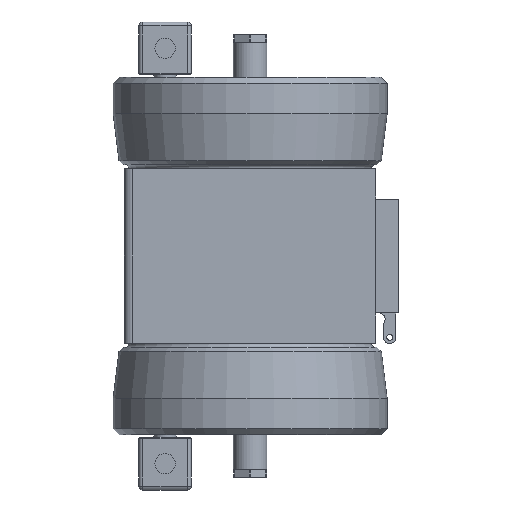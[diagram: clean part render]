
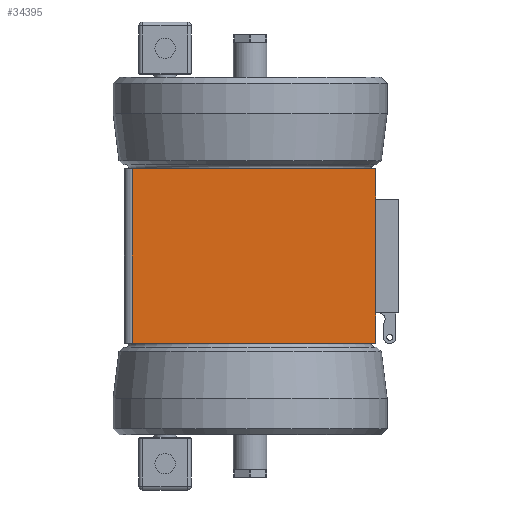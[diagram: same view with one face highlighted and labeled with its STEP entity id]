
A CAD part, left-side view. The second image highlights one B-rep face of the part: STEP entity #34395.
In plain terms, the highlighted planar face has unit normal (-1, 0, 0).
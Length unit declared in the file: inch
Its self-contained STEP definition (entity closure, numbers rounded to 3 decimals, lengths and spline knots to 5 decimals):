
#130 = DIRECTION ( 'NONE',  ( 0., -1., 0. ) ) ;
#135 = CARTESIAN_POINT ( 'NONE',  ( -4.0625, 4.0625, -2.82725 ) ) ;
#169 = CARTESIAN_POINT ( 'NONE',  ( -4.0625, -4.0625, 2.82725 ) ) ;
#171 = DIRECTION ( 'NONE',  ( 0., 0., -1. ) ) ;
#215 = CARTESIAN_POINT ( 'NONE',  ( -4.0625, 3.8125, -2.82725 ) ) ;
#234 = DIRECTION ( 'NONE',  ( 0., 0., -1. ) ) ;
#5251 = VECTOR ( 'NONE', #6084, 39.37008 ) ;
#5529 = LINE ( 'NONE', #6030, #5251 ) ;
#5896 = LINE ( 'NONE', #6169, #5904 ) ;
#5904 = VECTOR ( 'NONE', #6173, 39.37008 ) ;
#6030 = CARTESIAN_POINT ( 'NONE',  ( -4.0625, -4.0625, 2.82725 ) ) ;
#6084 = DIRECTION ( 'NONE',  ( 0., 0., -1. ) ) ;
#6169 = CARTESIAN_POINT ( 'NONE',  ( -4.0625, -4.0625, 2.82725 ) ) ;
#6173 = DIRECTION ( 'NONE',  ( 0., 0., -1. ) ) ;
#6478 = EDGE_CURVE ( 'NONE', #10713, #10783, #5529, .T. ) ;
#6534 = EDGE_CURVE ( 'NONE', #10759, #10645, #5896, .T. ) ;
#6705 = DIRECTION ( 'NONE',  ( 0., -1., 0. ) ) ;
#6707 = CARTESIAN_POINT ( 'NONE',  ( -4.0625, 4.0625, 2.82725 ) ) ;
#8940 = EDGE_LOOP ( 'NONE', ( #17939, #10972, #17688, #10898, #10893, #10993 ) ) ;
#10645 = VERTEX_POINT ( 'NONE', #23133 ) ;
#10713 = VERTEX_POINT ( 'NONE', #23200 ) ;
#10759 = VERTEX_POINT ( 'NONE', #23037 ) ;
#10783 = VERTEX_POINT ( 'NONE', #22988 ) ;
#10893 = ORIENTED_EDGE ( 'NONE', *, *, #16281, .F. ) ;
#10898 = ORIENTED_EDGE ( 'NONE', *, *, #6478, .F. ) ;
#10972 = ORIENTED_EDGE ( 'NONE', *, *, #16296, .T. ) ;
#10993 = ORIENTED_EDGE ( 'NONE', *, *, #6534, .F. ) ;
#16245 = EDGE_CURVE ( 'NONE', #26980, #10783, #25996, .T. ) ;
#16281 = EDGE_CURVE ( 'NONE', #10645, #10713, #26067, .T. ) ;
#16296 = EDGE_CURVE ( 'NONE', #26982, #26980, #26094, .T. ) ;
#16307 = EDGE_CURVE ( 'NONE', #26982, #10759, #26123, .T. ) ;
#17688 = ORIENTED_EDGE ( 'NONE', *, *, #16245, .T. ) ;
#17887 = FACE_OUTER_BOUND ( 'NONE', #8940, .T. ) ;
#17939 = ORIENTED_EDGE ( 'NONE', *, *, #16307, .F. ) ;
#22988 = CARTESIAN_POINT ( 'NONE',  ( -4.0625, -4.0625, -2.82725 ) ) ;
#23037 = CARTESIAN_POINT ( 'NONE',  ( -4.0625, -4.0625, 2.82725 ) ) ;
#23133 = CARTESIAN_POINT ( 'NONE',  ( -4.0625, -4.0625, 1.842 ) ) ;
#23200 = CARTESIAN_POINT ( 'NONE',  ( -4.0625, -4.0625, -1.842 ) ) ;
#24416 = CARTESIAN_POINT ( 'NONE',  ( -4.0625, 3.8125, -2.82725 ) ) ;
#24417 = CARTESIAN_POINT ( 'NONE',  ( -4.0625, 3.8125, 2.82725 ) ) ;
#25996 = LINE ( 'NONE', #135, #25998 ) ;
#25998 = VECTOR ( 'NONE', #130, 39.37008 ) ;
#26067 = LINE ( 'NONE', #169, #26070 ) ;
#26070 = VECTOR ( 'NONE', #171, 39.37008 ) ;
#26094 = LINE ( 'NONE', #215, #26106 ) ;
#26106 = VECTOR ( 'NONE', #234, 39.37008 ) ;
#26123 = LINE ( 'NONE', #6707, #26128 ) ;
#26128 = VECTOR ( 'NONE', #6705, 39.37008 ) ;
#26980 = VERTEX_POINT ( 'NONE', #24416 ) ;
#26982 = VERTEX_POINT ( 'NONE', #24417 ) ;
#33155 = AXIS2_PLACEMENT_3D ( 'NONE', #39963, #39972, #39974 ) ;
#34395 = ADVANCED_FACE ( 'NONE', ( #17887 ), #39960, .F. ) ;
#39960 = PLANE ( 'NONE',  #33155 ) ;
#39963 = CARTESIAN_POINT ( 'NONE',  ( -4.0625, 4.0625, 2.82725 ) ) ;
#39972 = DIRECTION ( 'NONE',  ( 1., 0., 0. ) ) ;
#39974 = DIRECTION ( 'NONE',  ( 0., 1., 0. ) ) ;
